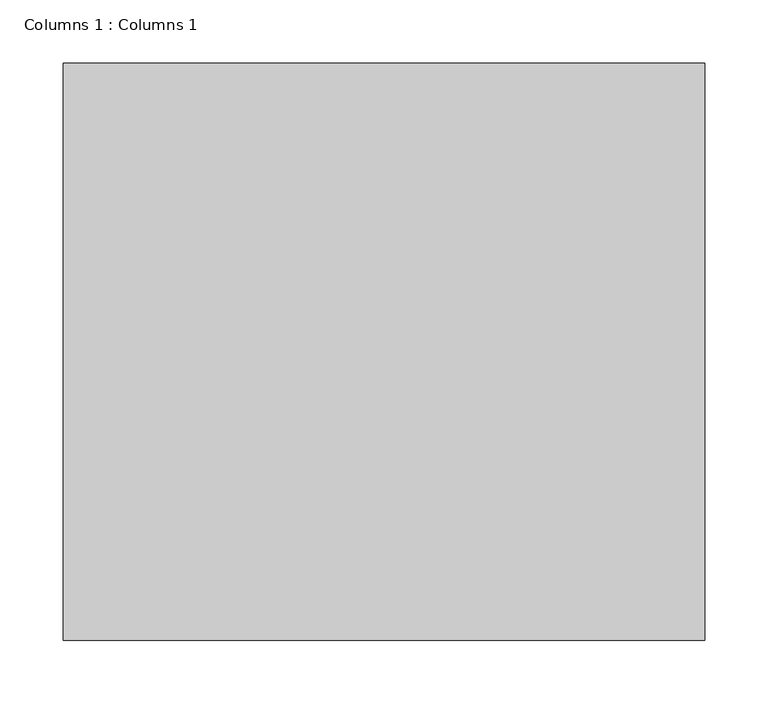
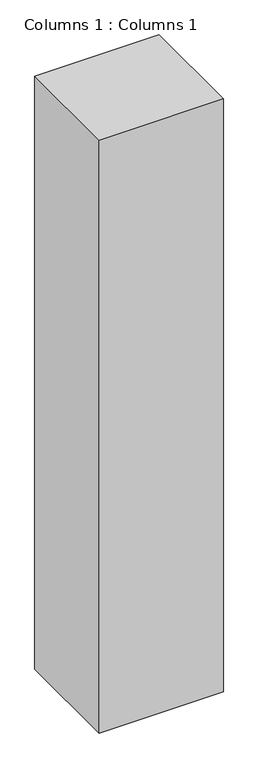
"""IFC4 building model written with IfcOpenShell, lengths in millimetres: column geometry, Columns 1 : Columns 1."""

from ifc_helpers import new_model, si_unit, origin, origin_with_axes, place, context, project, spatial, polyline, outline, extrude, source, transform, mapped, element, save


def columns_1_columns_1_5ad2784a(model_context):
    return source(origin(), model_context, "Body", "SweptSolid", [
        extrude(outline(polyline([(3302.0, 5397.5), (3302.0, 4940.3), (2794.0, 4940.3), (2794.0, 5397.5), (3302.0, 5397.5)])), origin_with_axes(), (0.0, 0.0, 1.0), 2565.4),
    ])


if __name__ == "__main__":
    model = new_model("IFC4")
    model_context = context("Model", 3, world=origin())
    ifc_project = project(units=[si_unit("LENGTHUNIT", "METRE", prefix="MILLI")], contexts=[model_context])
    site = spatial("IfcSite", under=ifc_project)
    building = spatial("IfcBuilding", under=site)
    placement = place(None, origin())
    columns_1_columns_1_shape = columns_1_columns_1_5ad2784a(model_context)
    element("IfcColumn", 1, ObjectType="Columns 1 : Columns 1", at=placement, inside=building, context=model_context, shape_type="MappedRepresentation", body=[
        mapped(columns_1_columns_1_shape, transform((0.0, 0.0, 0.0), x_axis=(1.0, 0.0, 0.0), y_axis=(0.0, 1.0, 0.0), z_axis=(0.0, 0.0, 1.0))),
    ])
    save(model, "model.ifc")
